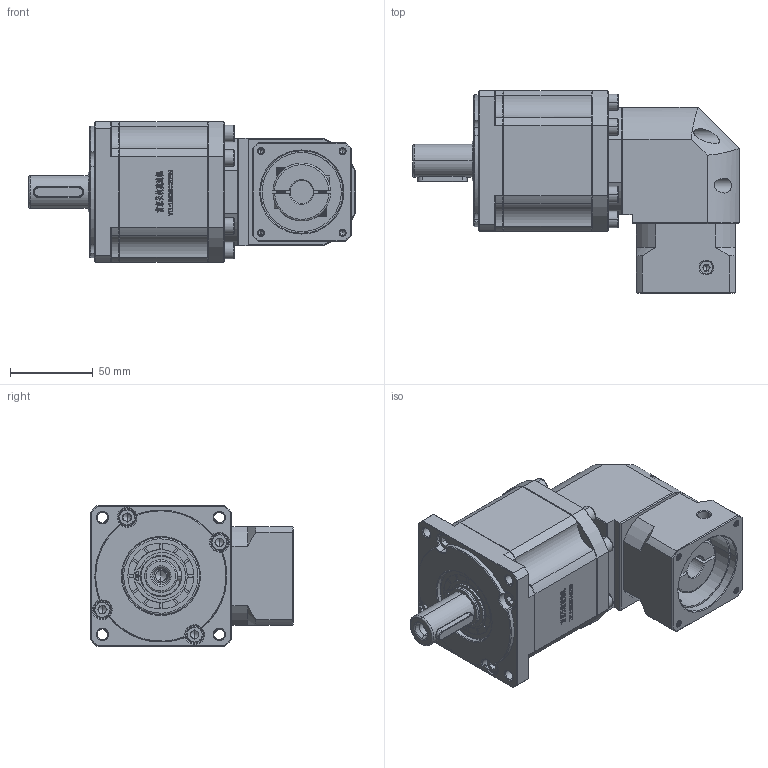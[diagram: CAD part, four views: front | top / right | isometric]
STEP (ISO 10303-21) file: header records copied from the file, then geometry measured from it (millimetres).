
FILE_DESCRIPTION (( 'STEP AP214' ), '1' );
FILE_NAME ('ZBR90-D20-L3-14-50-70-M4.step', '2022-05-07T15:17:39', ( '' ), ( 'Microsoft' ), 'SwSTEP 2.0', 'SolidWorks 2016', '' );
FILE_SCHEMA (( 'AUTOMOTIVE_DESIGN' ));
Length unit declared in the file: millimetre
Products named in the file (1): ZBR90-D20-L3-14-50-70-M4
Bounding box: 198 x 122.7 x 85 mm (x, y, z)
Volume: 920944.5 mm3; surface area: 105021.1 mm2
Topology: 5 solids, 5 shells, 3032 faces, 8112 edges, 5224 vertices
Faces by surface type: plane 1598, bspline 620, cylinder 437, cone 369, torus 8
Entity records: 161221 total; most frequent: CARTESIAN_POINT 56844, ORIENTED_EDGE 16132, DIRECTION 12392, EDGE_CURVE 8066, VECTOR 5330, LINE 5330, VERTEX_POINT 5224, AXIS2_PLACEMENT_3D 3531
